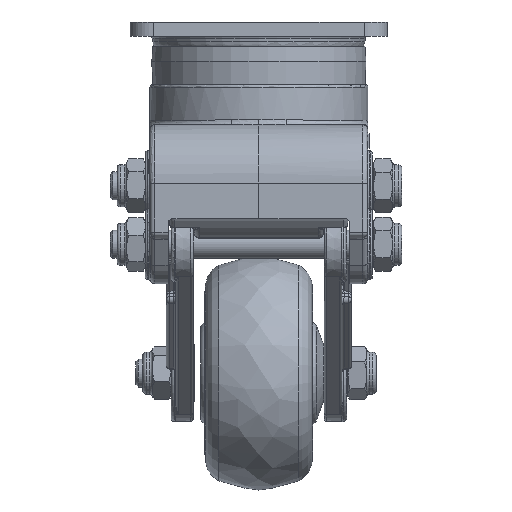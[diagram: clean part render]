
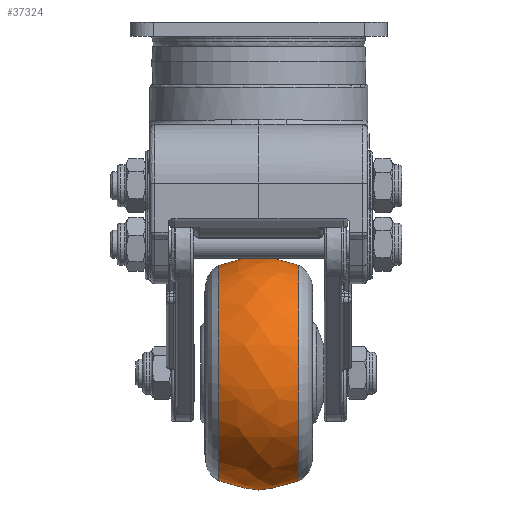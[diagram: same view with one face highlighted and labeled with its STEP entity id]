
A CAD part, left-side view. The second image highlights one B-rep face of the part: STEP entity #37324.
In plain terms, the highlighted free-form (B-spline) face has degree [2, 2] with [3, 9] control points.
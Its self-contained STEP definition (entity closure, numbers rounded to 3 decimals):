
#18=(
BOUNDED_SURFACE()
B_SPLINE_SURFACE(2,2,((#60881,#60882,#60883,#60884,#60885,#60886,#60887,
#60888,#60889),(#60890,#60891,#60892,#60893,#60894,#60895,#60896,#60897,
#60898),(#60899,#60900,#60901,#60902,#60903,#60904,#60905,#60906,#60907)),
 .UNSPECIFIED.,.F.,.T.,.F.)
B_SPLINE_SURFACE_WITH_KNOTS((3,3),(3,2,2,2,3),(-0.44,0.44),
(-3.142,-1.571,0.,1.571,3.142),
 .UNSPECIFIED.)
GEOMETRIC_REPRESENTATION_ITEM()
RATIONAL_B_SPLINE_SURFACE(((1.,0.707,1.,0.707,1.,
0.707,1.,0.707,1.),(0.905,0.64,
0.905,0.64,0.905,0.64,
0.905,0.64,0.905),(1.,0.707,
1.,0.707,1.,0.707,1.,0.707,1.)))
REPRESENTATION_ITEM('')
SURFACE()
);
#9388=FACE_OUTER_BOUND('',#11495,.T.);
#11495=EDGE_LOOP('',(#27908,#27909,#27910,#27911,#27912,#27913));
#13277=CIRCLE('',#39933,23.096);
#13278=CIRCLE('',#39934,23.096);
#13279=CIRCLE('',#39935,20.);
#13280=CIRCLE('',#39936,23.096);
#13281=CIRCLE('',#39937,23.096);
#15454=VERTEX_POINT('',#60908);
#15455=VERTEX_POINT('',#60909);
#15456=VERTEX_POINT('',#60912);
#15457=VERTEX_POINT('',#60914);
#19931=EDGE_CURVE('',#15454,#15455,#13277,.T.);
#19932=EDGE_CURVE('',#15455,#15454,#13278,.T.);
#19933=EDGE_CURVE('',#15455,#15456,#13279,.T.);
#19934=EDGE_CURVE('',#15456,#15457,#13280,.T.);
#19935=EDGE_CURVE('',#15457,#15456,#13281,.T.);
#27908=ORIENTED_EDGE('',*,*,#19931,.F.);
#27909=ORIENTED_EDGE('',*,*,#19932,.F.);
#27910=ORIENTED_EDGE('',*,*,#19933,.T.);
#27911=ORIENTED_EDGE('',*,*,#19934,.T.);
#27912=ORIENTED_EDGE('',*,*,#19935,.T.);
#27913=ORIENTED_EDGE('',*,*,#19933,.F.);
#37324=ADVANCED_FACE('',(#9388),#18,.F.);
#39933=AXIS2_PLACEMENT_3D('',#60910,#45357,#45358);
#39934=AXIS2_PLACEMENT_3D('',#60911,#45359,#45360);
#39935=AXIS2_PLACEMENT_3D('',#60913,#45361,#45362);
#39936=AXIS2_PLACEMENT_3D('',#60915,#45363,#45364);
#39937=AXIS2_PLACEMENT_3D('',#60916,#45365,#45366);
#45357=DIRECTION('center_axis',(0.,-1.,0.));
#45358=DIRECTION('ref_axis',(-0.412,0.,-0.911));
#45359=DIRECTION('center_axis',(0.,-1.,0.));
#45360=DIRECTION('ref_axis',(-0.412,0.,-0.911));
#45361=DIRECTION('center_axis',(-0.911,0.,
0.412));
#45362=DIRECTION('ref_axis',(0.412,0.,0.911));
#45363=DIRECTION('center_axis',(0.,-1.,0.));
#45364=DIRECTION('ref_axis',(-0.412,0.,-0.911));
#45365=DIRECTION('center_axis',(0.,-1.,0.));
#45366=DIRECTION('ref_axis',(-0.412,0.,-0.911));
#60881=CARTESIAN_POINT('Ctrl Pts',(-31.899,-34.055,
-0.436));
#60882=CARTESIAN_POINT('Ctrl Pts',(-52.944,-34.055,
9.081));
#60883=CARTESIAN_POINT('Ctrl Pts',(-62.461,-34.055,
-11.963));
#60884=CARTESIAN_POINT('Ctrl Pts',(-71.978,-34.055,
-33.007));
#60885=CARTESIAN_POINT('Ctrl Pts',(-50.934,-34.055,
-42.525));
#60886=CARTESIAN_POINT('Ctrl Pts',(-29.89,-34.055,
-52.042));
#60887=CARTESIAN_POINT('Ctrl Pts',(-20.373,-34.055,
-30.998));
#60888=CARTESIAN_POINT('Ctrl Pts',(-10.855,-34.055,
-9.954));
#60889=CARTESIAN_POINT('Ctrl Pts',(-31.899,-34.055,
-0.436));
#60890=CARTESIAN_POINT('Ctrl Pts',(-30.248,-42.571,
3.215));
#60891=CARTESIAN_POINT('Ctrl Pts',(-54.944,-42.571,
14.384));
#60892=CARTESIAN_POINT('Ctrl Pts',(-66.113,-42.571,
-10.312));
#60893=CARTESIAN_POINT('Ctrl Pts',(-77.281,-42.571,
-35.007));
#60894=CARTESIAN_POINT('Ctrl Pts',(-52.586,-42.571,
-46.176));
#60895=CARTESIAN_POINT('Ctrl Pts',(-27.89,-42.571,
-57.345));
#60896=CARTESIAN_POINT('Ctrl Pts',(-16.721,-42.571,
-32.649));
#60897=CARTESIAN_POINT('Ctrl Pts',(-5.552,-42.571,
-7.953));
#60898=CARTESIAN_POINT('Ctrl Pts',(-30.248,-42.571,
3.215));
#60899=CARTESIAN_POINT('Ctrl Pts',(-31.899,-51.087,-0.436));
#60900=CARTESIAN_POINT('Ctrl Pts',(-52.944,-51.087,
9.081));
#60901=CARTESIAN_POINT('Ctrl Pts',(-62.461,-51.087,
-11.963));
#60902=CARTESIAN_POINT('Ctrl Pts',(-71.978,-51.087,-33.007));
#60903=CARTESIAN_POINT('Ctrl Pts',(-50.934,-51.087,
-42.525));
#60904=CARTESIAN_POINT('Ctrl Pts',(-29.89,-51.087,-52.042));
#60905=CARTESIAN_POINT('Ctrl Pts',(-20.373,-51.087,-30.998));
#60906=CARTESIAN_POINT('Ctrl Pts',(-10.855,-51.087,
-9.954));
#60907=CARTESIAN_POINT('Ctrl Pts',(-31.899,-51.087,-0.436));
#60908=CARTESIAN_POINT('',(-50.934,-51.087,-42.525));
#60909=CARTESIAN_POINT('',(-31.899,-51.087,-0.436));
#60910=CARTESIAN_POINT('Origin',(-41.417,-51.087,-21.48));
#60911=CARTESIAN_POINT('Origin',(-41.417,-51.087,-21.48));
#60912=CARTESIAN_POINT('',(-31.899,-34.055,-0.436));
#60913=CARTESIAN_POINT('Origin',(-39.356,-42.571,-16.925));
#60914=CARTESIAN_POINT('',(-50.934,-34.055,-42.525));
#60915=CARTESIAN_POINT('Origin',(-41.417,-34.055,-21.48));
#60916=CARTESIAN_POINT('Origin',(-41.417,-34.055,-21.48));
